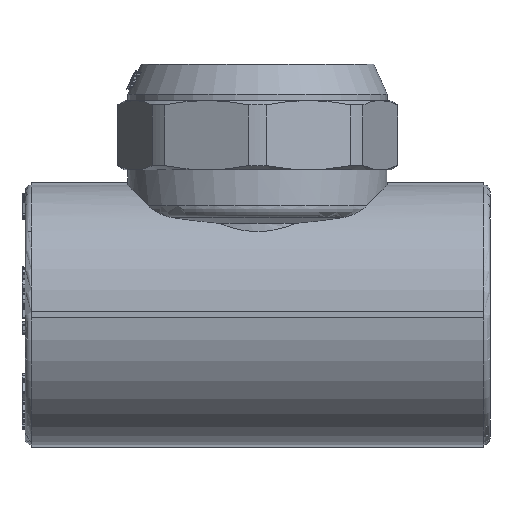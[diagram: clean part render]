
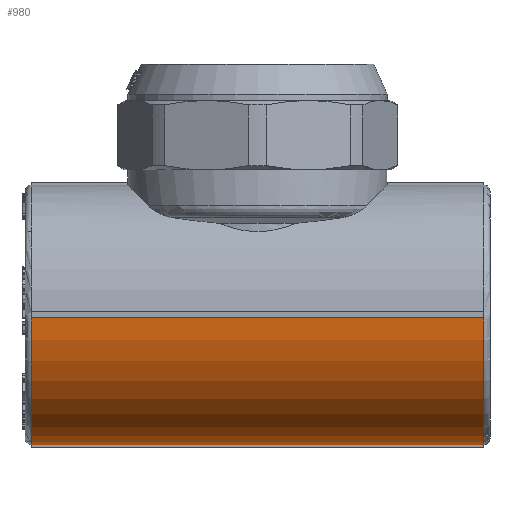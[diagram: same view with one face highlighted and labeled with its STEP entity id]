
A CAD part, left-side view. The second image highlights one B-rep face of the part: STEP entity #980.
In plain terms, the highlighted cylindrical face has radius 21.5 mm (diameter 43 mm), a partial arc.
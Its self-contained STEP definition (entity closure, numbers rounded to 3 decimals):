
#980=ADVANCED_FACE('',(#6003),#6005,.T.);
#6003=FACE_BOUND('',#6004,.T.);
#6004=EDGE_LOOP('',(#12671,#12672,#12673,#12674));
#6005=CYLINDRICAL_SURFACE('',#6006,21.5);
#6006=AXIS2_PLACEMENT_3D('',#6007,#6008,#6009);
#6007=CARTESIAN_POINT('',(0.,-38.5,0.));
#6008=DIRECTION('',(0.,1.,0.));
#6009=DIRECTION('',(-1.,0.,0.));
#12671=ORIENTED_EDGE('',*,*,#16042,.F.);
#12672=ORIENTED_EDGE('',*,*,#15112,.T.);
#12673=ORIENTED_EDGE('',*,*,#16043,.F.);
#12674=ORIENTED_EDGE('',*,*,#15119,.F.);
#15112=EDGE_CURVE('',#18548,#18546,#18549,.T.);
#15119=EDGE_CURVE('',#18560,#18562,#18563,.T.);
#16042=EDGE_CURVE('',#18548,#18560,#19957,.T.);
#16043=EDGE_CURVE('',#18562,#18546,#19958,.F.);
#18546=VERTEX_POINT('',#28341);
#18548=VERTEX_POINT('',#28346);
#18549=CIRCLE('',#28347,21.5);
#18560=VERTEX_POINT('',#28376);
#18562=VERTEX_POINT('',#28381);
#18563=CIRCLE('',#28382,21.5);
#19957=LINE('',#31639,#31640);
#19958=LINE('',#31642,#31643);
#28341=CARTESIAN_POINT('',(-21.494,-37.5,-0.5));
#28346=CARTESIAN_POINT('',(-0.5,-37.5,-21.494));
#28347=AXIS2_PLACEMENT_3D('',#28348,#28349,#28350);
#28348=CARTESIAN_POINT('',(0.,-37.5,0.));
#28349=DIRECTION('',(0.,1.,0.));
#28350=DIRECTION('',(-0.023,0.,-1.));
#28376=CARTESIAN_POINT('',(-0.5,37.5,-21.494));
#28381=CARTESIAN_POINT('',(-21.494,37.5,-0.5));
#28382=AXIS2_PLACEMENT_3D('',#28383,#28384,#28385);
#28383=CARTESIAN_POINT('',(0.,37.5,0.));
#28384=DIRECTION('',(0.,1.,0.));
#28385=DIRECTION('',(-0.023,0.,-1.));
#31639=CARTESIAN_POINT('',(-0.5,-37.5,-21.494));
#31640=VECTOR('',#31641,1.);
#31641=DIRECTION('',(0.,1.,0.));
#31642=CARTESIAN_POINT('',(-21.494,-37.5,-0.5));
#31643=VECTOR('',#31644,1.);
#31644=DIRECTION('',(0.,1.,0.));
